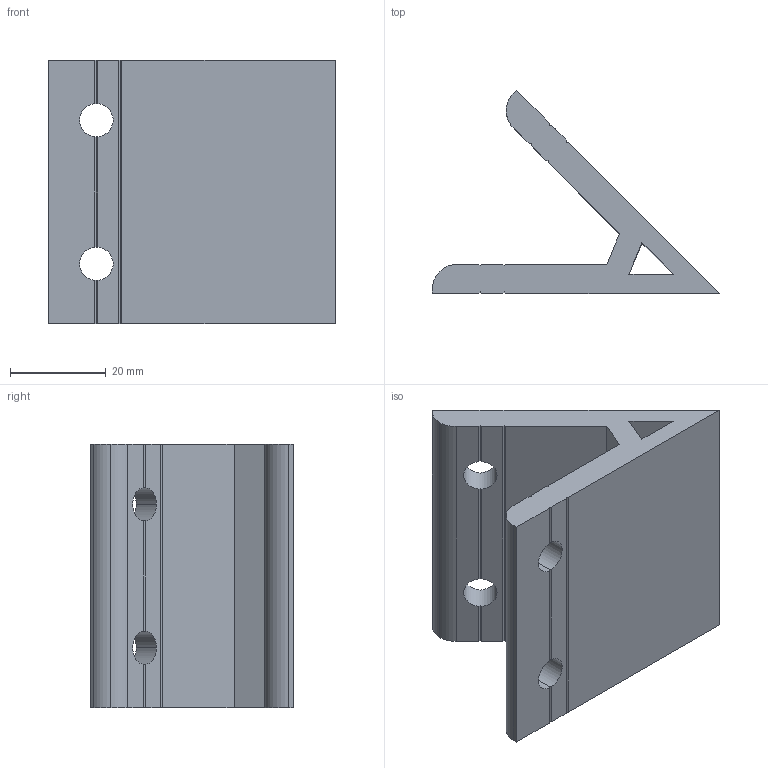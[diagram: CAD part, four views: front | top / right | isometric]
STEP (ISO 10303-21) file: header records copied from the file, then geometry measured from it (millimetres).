
FILE_DESCRIPTION (( 'STEP AP203' ), '1' );
FILE_NAME ('DALV4555-6.STEP', '2019-04-24T09:01:30', ( '' ), ( '' ), 'SwSTEP 2.0', 'SolidWorks 2012', '' );
FILE_SCHEMA (( 'CONFIG_CONTROL_DESIGN' ));
Length unit declared in the file: millimetre
Products named in the file (1): DALV4555-6
Bounding box: 60 x 42.43 x 55 mm (x, y, z)
Volume: 33204.4 mm3; surface area: 14378.6 mm2
Topology: 1 solids, 1 shells, 63 faces, 199 edges, 130 vertices
Faces by surface type: plane 52, cylinder 11
Entity records: 2276 total; most frequent: CARTESIAN_POINT 489, ORIENTED_EDGE 398, DIRECTION 325, EDGE_CURVE 199, VECTOR 137, LINE 137, VERTEX_POINT 130, AXIS2_PLACEMENT_3D 94
